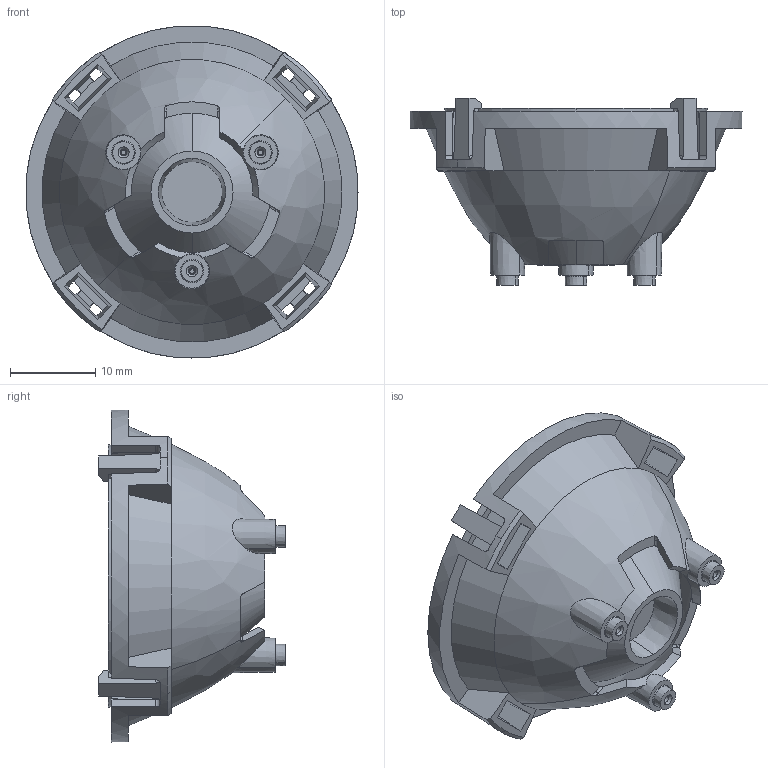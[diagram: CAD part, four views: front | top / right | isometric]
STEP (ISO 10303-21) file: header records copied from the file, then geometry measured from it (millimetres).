
FILE_DESCRIPTION (( 'STEP AP214' ), '1' );
FILE_NAME ('LLxx-2T06-P3_RevE.STEP', '2015-01-30T00:08:55', ( 'Ledengin' ), ( '' ), 'SwSTEP 2.0', 'SolidWorks 2014', '' );
FILE_SCHEMA (( 'AUTOMOTIVE_DESIGN' ));
Length unit declared in the file: millimetre
Products named in the file (3): 2400-0033_RevE_Distorted(wo_dimples); 2300-0036_Lens_Holder_10W-Emitter_revF_cpy_01-29-15; LLxx-2T06-P3_RevE
Assembly tree (2 placements, depth 2):
  LLxx-2T06-P3_RevE
    2300-0036_Lens_Holder_10W-Emitter_revF_cpy_01-29-15
    2400-0033_RevE_Distorted(wo_dimples)
Bounding box: 38.95 x 21.9 x 38.95 mm (x, y, z)
Volume: 10572.4 mm3; surface area: 7519 mm2
Topology: 2 solids, 2 shells, 227 faces, 601 edges, 385 vertices
Faces by surface type: plane 124, cone 51, cylinder 28, bspline 22, torus 2
Entity records: 10138 total; most frequent: CARTESIAN_POINT 2295, ORIENTED_EDGE 1202, DIRECTION 1052, EDGE_CURVE 601, VERTEX_POINT 385, AXIS2_PLACEMENT_3D 372, LINE 308, VECTOR 308
